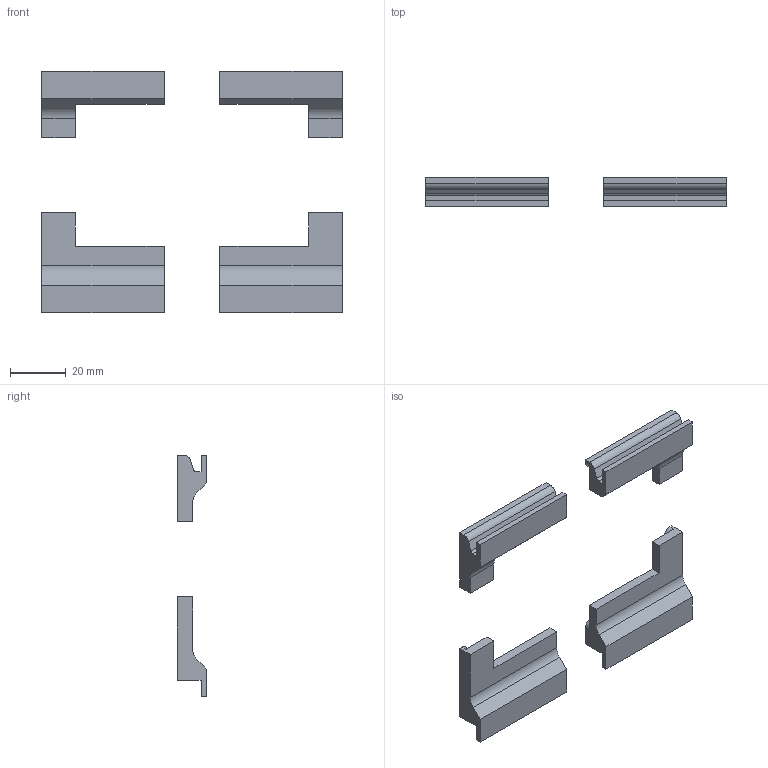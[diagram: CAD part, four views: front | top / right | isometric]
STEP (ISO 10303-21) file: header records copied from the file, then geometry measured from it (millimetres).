
FILE_DESCRIPTION(/* description */ (''),/* implementation_level */ '2;1');
FILE_NAME(/* name */ 'C:/Users/Ben/Downloads/3d-prints/printing/missing/PCBHolder/100mmClipPCBHolder.step',/* time_stamp */ '2022-03-13T14:47:02-04:00',/* author */ (''),/* organization */ (''),/* preprocessor_version */ 'ST-DEVELOPER v18.1',/* originating_system */ 'Autodesk Translation Framework v10.10.0.1391',/* authorisation */ '');
FILE_SCHEMA (('AUTOMOTIVE_DESIGN { 1 0 10303 214 3 1 1 }'));
Length unit declared in the file: millimetre
Products named in the file (1): ClipPCBHolder
Bounding box: 108 x 10.5 x 87 mm (x, y, z)
Volume: 21575.7 mm3; surface area: 13145.6 mm2
Topology: 4 solids, 4 shells, 92 faces, 252 edges, 168 vertices
Faces by surface type: plane 64, cylinder 28
Entity records: 2931 total; most frequent: CARTESIAN_POINT 513, ORIENTED_EDGE 504, DIRECTION 494, EDGE_CURVE 252, LINE 196, VECTOR 196, VERTEX_POINT 168, AXIS2_PLACEMENT_3D 149
